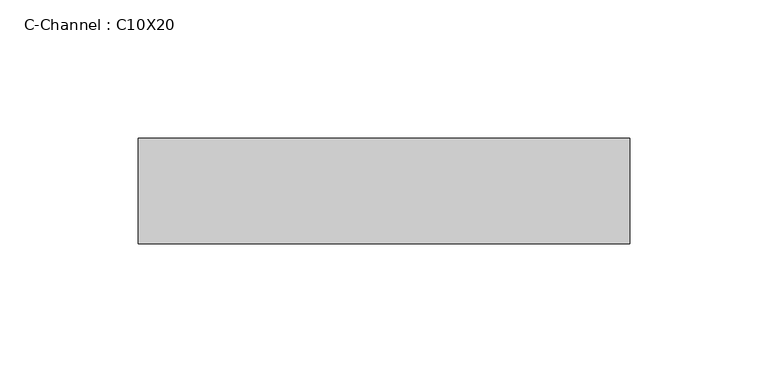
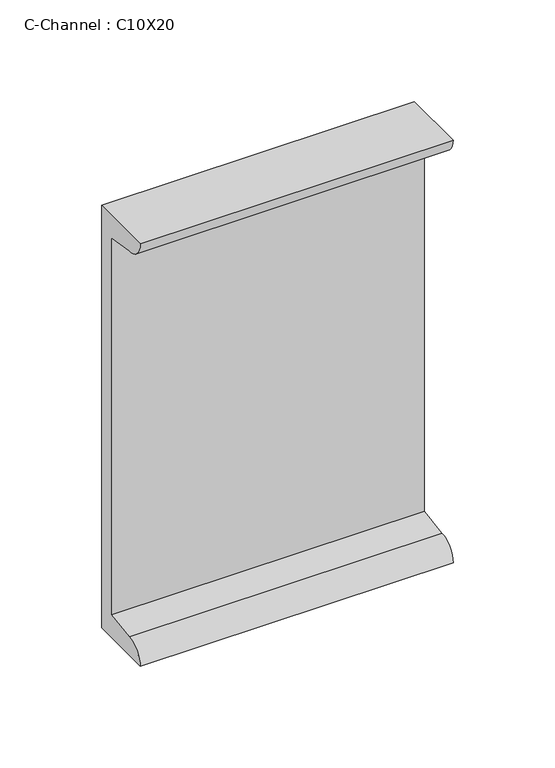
"""IFC4 building model written with IfcOpenShell, lengths in millimetres: beam geometry, C-Channel : C10X20."""

import ifcopenshell
import ifcopenshell.guid

model = None  # the IFC model being written
_history = None  # IfcOwnerHistory: only IFC2X3 demands one
_inside = {}  # id of a spatial element -> (the spatial element, [elements in it])
_under = {}  # id of a project, library or spatial element -> (it, [spatial elements below it])
_declared = {}  # id of a project -> (the project, [libraries it declares])
_typed = {}  # id of a type object -> (the type object, [elements of that type])
_made_of = {}  # id of a material, layer set ... -> (it, [elements and type objects made of it])


def new_model(schema):
    """Start an empty IFC model of exactly this schema.

    Asked for "IFC4X3", IfcOpenShell would pick the latest addendum, in which some entities
    have other attributes; the version numbers below select the first issue.
    IFC2X3 requires an IfcOwnerHistory on every rooted entity: one is made here for all.
    """
    global model, _history
    if schema == "IFC4X3":
        model = ifcopenshell.file(schema_version=(4, 3, 0, 0))
    else:
        model = ifcopenshell.file(schema=schema)
    _inside.clear()
    _under.clear()
    _declared.clear()
    _typed.clear()
    _made_of.clear()
    _history = None
    if model.schema == "IFC2X3":
        org = make("IfcOrganization", Name="unknown")
        user = make(
            "IfcPersonAndOrganization",
            ThePerson=make("IfcPerson", FamilyName="unknown"),
            TheOrganization=org,
        )
        app = make(
            "IfcApplication",
            ApplicationDeveloper=org,
            Version="unknown",
            ApplicationFullName="unknown",
            ApplicationIdentifier="unknown",
        )
        _history = make(
            "IfcOwnerHistory",
            OwningUser=user,
            OwningApplication=app,
            ChangeAction="ADDED",
            CreationDate=0,
        )
    return model


def make(cls, **values):
    """One entity of the class cls with the attributes given. An attribute that is None is left unset."""
    return model.create_entity(
        cls, **{name: value for name, value in values.items() if value is not None}
    )


def rooted(cls, **values):
    """An entity with a GlobalId (a new one), such as an element, a storey or a relation."""
    return make(cls, GlobalId=ifcopenshell.guid.new(), OwnerHistory=_history, **values)


def si_unit(unit_type, name, prefix=None):
    """IfcSIUnit, for example si_unit("LENGTHUNIT", "METRE", prefix="MILLI")."""
    return make("IfcSIUnit", UnitType=unit_type, Prefix=prefix, Name=name)


def assignment(units):
    """IfcUnitAssignment: the units of a project."""
    return None if units is None else make("IfcUnitAssignment", Units=units)


def point(xyz):
    """IfcCartesianPoint."""
    return None if xyz is None else make("IfcCartesianPoint", Coordinates=xyz)


def direction(xyz):
    """IfcDirection."""
    return None if xyz is None else make("IfcDirection", DirectionRatios=xyz)


def frame(location, z_axis=None, x_axis=None):
    """IfcAxis2Placement3D, a coordinate frame: its origin and axes. An axis left out is left unset."""
    return make(
        "IfcAxis2Placement3D",
        Location=point(location),
        Axis=direction(z_axis),
        RefDirection=direction(x_axis),
    )


def frame_2d(location, x_axis=None):
    """IfcAxis2Placement2D, a coordinate frame in the plane: its origin and x axis."""
    return make(
        "IfcAxis2Placement2D", Location=point(location), RefDirection=direction(x_axis)
    )


def origin():
    """The frame at (0, 0, 0) with its axes left unset."""
    return frame((0.0, 0.0, 0.0))


def place(relative_to, where):
    """IfcLocalPlacement: puts the frame where relative to a parent placement (None: the world)."""
    return make(
        "IfcLocalPlacement", PlacementRelTo=relative_to, RelativePlacement=where
    )


def context(
    kind, dimensions, precision=None, world=None, true_north=None, identifier=None
):
    """IfcGeometricRepresentationContext, for example the 3D "Model" context."""
    return make(
        "IfcGeometricRepresentationContext",
        ContextIdentifier=identifier,
        ContextType=kind,
        CoordinateSpaceDimension=dimensions,
        Precision=precision,
        WorldCoordinateSystem=world,
        TrueNorth=true_north,
    )


def project(units=None, contexts=None):
    """IfcProject with its units and contexts."""
    return rooted(
        "IfcProject",
        Name="project",
        RepresentationContexts=contexts,
        UnitsInContext=assignment(units),
    )


def spatial(cls, under=None, at=None, **own):
    """A site, building, storey or space (cls), placed at a placement, below another one or the project."""
    s = rooted(cls, ObjectPlacement=at, **own)
    if under is not None:
        _under.setdefault(under.id(), (under, []))[1].append(s)
    return s


def polyline(points):
    """IfcPolyline through the points."""
    return make("IfcPolyline", Points=[point(p) for p in points])


def circle_curve(where, radius):
    """IfcCircle in the frame where."""
    return make("IfcCircle", Position=where, Radius=radius)


def trimmed(basis, trim1, trim2, sense, master):
    """IfcTrimmedCurve: the piece of a basis curve between two trims."""
    return make(
        "IfcTrimmedCurve",
        BasisCurve=basis,
        Trim1=trim1,
        Trim2=trim2,
        SenseAgreement=sense,
        MasterRepresentation=master,
    )


def segment(curve, same_sense, transition):
    """IfcCompositeCurveSegment."""
    return make(
        "IfcCompositeCurveSegment",
        Transition=transition,
        SameSense=same_sense,
        ParentCurve=curve,
    )


def composite_curve(segments, self_intersect=None):
    """IfcCompositeCurve: segments joined end to end."""
    return make("IfcCompositeCurve", Segments=segments, SelfIntersect=self_intersect)


def outline(outer, holes=None, kind="AREA"):
    """IfcArbitraryClosedProfileDef: a profile drawn as a closed curve; with holes, ...WithVoids."""
    if holes is None:
        return make("IfcArbitraryClosedProfileDef", ProfileType=kind, OuterCurve=outer)
    return make(
        "IfcArbitraryProfileDefWithVoids",
        ProfileType=kind,
        OuterCurve=outer,
        InnerCurves=holes,
    )


def extrude(swept, where, along, depth):
    """IfcExtrudedAreaSolid: the profile swept, set in the frame where, extruded along a direction by depth."""
    return make(
        "IfcExtrudedAreaSolid",
        SweptArea=swept,
        Position=where,
        ExtrudedDirection=direction(along),
        Depth=depth,
    )


def shape(context_of_items, identifier, shape_type, items):
    """IfcShapeRepresentation: the items that make up one representation, for example the "Body"."""
    return make(
        "IfcShapeRepresentation",
        ContextOfItems=context_of_items,
        RepresentationIdentifier=identifier,
        RepresentationType=shape_type,
        Items=items,
    )


def source(mapping_origin, context_of_items, identifier, shape_type, items):
    """IfcRepresentationMap: a shape defined once, which mapped items show again and again."""
    return make(
        "IfcRepresentationMap",
        MappingOrigin=mapping_origin,
        MappedRepresentation=shape(context_of_items, identifier, shape_type, items),
    )


def transform(
    local_origin,
    x_axis=None,
    y_axis=None,
    z_axis=None,
    scale=None,
    scale2=None,
    scale3=None,
    uniform=True,
):
    """IfcCartesianTransformationOperator3D, or its non-uniform kind. x_axis, y_axis, z_axis: its Axis1, 2, 3."""
    if uniform:
        return make(
            "IfcCartesianTransformationOperator3D",
            Axis1=direction(x_axis),
            Axis2=direction(y_axis),
            LocalOrigin=point(local_origin),
            Scale=scale,
            Axis3=direction(z_axis),
        )
    return make(
        "IfcCartesianTransformationOperator3DnonUniform",
        Axis1=direction(x_axis),
        Axis2=direction(y_axis),
        LocalOrigin=point(local_origin),
        Scale=scale,
        Axis3=direction(z_axis),
        Scale2=scale2,
        Scale3=scale3,
    )


def mapped(mapping_source, mapping_target):
    """IfcMappedItem: shows the shape of a source again, moved by a transform."""
    return make(
        "IfcMappedItem", MappingSource=mapping_source, MappingTarget=mapping_target
    )


def made_of(thing, what):
    """Note that an element or type object is made of a material, layer set ...; save() writes the relation."""
    if what is not None:
        _made_of.setdefault(what.id(), (what, []))[1].append(thing)
    return thing


def element(
    cls,
    number,
    at=None,
    inside=None,
    cuts=None,
    type_object=None,
    material=None,
    context=None,
    identifier="Body",
    shape_type=None,
    held_by="IfcProductDefinitionShape",
    body=None,
    shapes=None,
    **own,
):
    """One element of the class cls, such as IfcWall. Its Tag is "e" and its number.

    at: its placement. inside: the storey or other place that contains it. cuts: it is an
    opening in that element (IfcRelVoidsElement). A single representation is given by context,
    identifier, shape_type and body (its items); several are given by shapes. held_by: the class
    of the entity that holds the representations. save() writes the other relations.
    """
    e = rooted(cls, Tag="e%d" % number, ObjectPlacement=at, **own)
    if body is not None:
        shapes = [shape(context, identifier, shape_type, body)]
    if shapes is not None:
        e.Representation = make(held_by, Representations=shapes)
    if inside is not None:
        _inside.setdefault(inside.id(), (inside, []))[1].append(e)
    if cuts is not None:
        rooted(
            "IfcRelVoidsElement", RelatingBuildingElement=cuts, RelatedOpeningElement=e
        )
    if type_object is not None:
        _typed.setdefault(type_object.id(), (type_object, []))[1].append(e)
    return made_of(e, material)


def aggregate(whole, parts):
    """IfcRelAggregates: a whole, such as a stair, and the parts it consists of."""
    return rooted("IfcRelAggregates", RelatingObject=whole, RelatedObjects=parts)


def save(model, path):
    """Write the relations noted so far, then the file.

    IfcRelAggregates (storeys below a building ...), IfcRelContainedInSpatialStructure (elements
    in a storey), IfcRelDefinesByType, IfcRelAssociatesMaterial and IfcRelDeclares: one each for
    every whole, place, type object, material and project.
    """
    for whole, parts in _under.values():
        aggregate(whole, parts)
    for where, things in _inside.values():
        rooted(
            "IfcRelContainedInSpatialStructure",
            RelatedElements=things,
            RelatingStructure=where,
        )
    for kind, things in _typed.values():
        rooted("IfcRelDefinesByType", RelatedObjects=things, RelatingType=kind)
    for what, things in _made_of.values():
        rooted("IfcRelAssociatesMaterial", RelatedObjects=things, RelatingMaterial=what)
    for by, libraries in _declared.values():
        rooted("IfcRelDeclares", RelatingContext=by, RelatedDefinitions=libraries)
    model.write(path)


def c_channel_c10x20_7602a768(model_context):
    return source(origin(), model_context, "Body", "SweptSolid", [
        extrude(outline(composite_curve([segment(polyline([(15.3924, 127.0), (15.3924, -127.0), (-22.7076, -127.0)]), True, "CONTINUOUS"), segment(trimmed(circle_curve(frame_2d((-11.6332, -127.0)), 11.0744), [point((-22.7076, -127.0))], [point((-11.6332, -115.9256))], False, "CARTESIAN"), True, "CONTINUOUS"), segment(polyline([(-11.6332, -115.9256), (5.7658, -113.1698691), (5.7658, 113.1698691), (-11.6332, 115.9256)]), True, "CONTINUOUS"), segment(trimmed(circle_curve(frame_2d((-11.6332, 127.0)), 11.0744), [point((-11.6332, 115.9256))], [point((-22.7076, 127.0))], False, "CARTESIAN"), True, "CONTINUOUS"), segment(polyline([(-22.7076, 127.0), (15.3924, 127.0)]), True, "CONTINUOUS")], self_intersect=False)), frame((-95.2500003, 0.0, 0.0), z_axis=(1.0, 0.0, 0.0), x_axis=(0.0, 1.0, 0.0)), (0.0, 0.0, 1.0), 177.8),
    ])


if __name__ == "__main__":
    model = new_model("IFC4")
    model_context = context("Model", 3, world=origin())
    ifc_project = project(units=[si_unit("LENGTHUNIT", "METRE", prefix="MILLI")], contexts=[model_context])
    site = spatial("IfcSite", under=ifc_project)
    building = spatial("IfcBuilding", under=site)
    placement = place(None, origin())
    c_channel_c10x20_shape = c_channel_c10x20_7602a768(model_context)
    element("IfcBeam", 1, ObjectType="C-Channel : C10X20", at=placement, inside=building, context=model_context, shape_type="MappedRepresentation", body=[
        mapped(c_channel_c10x20_shape, transform((0.0, 0.0, 0.0), x_axis=(1.0, 0.0, 0.0), y_axis=(0.0, 1.0, 0.0), z_axis=(0.0, 0.0, 1.0))),
    ])
    save(model, "model.ifc")
